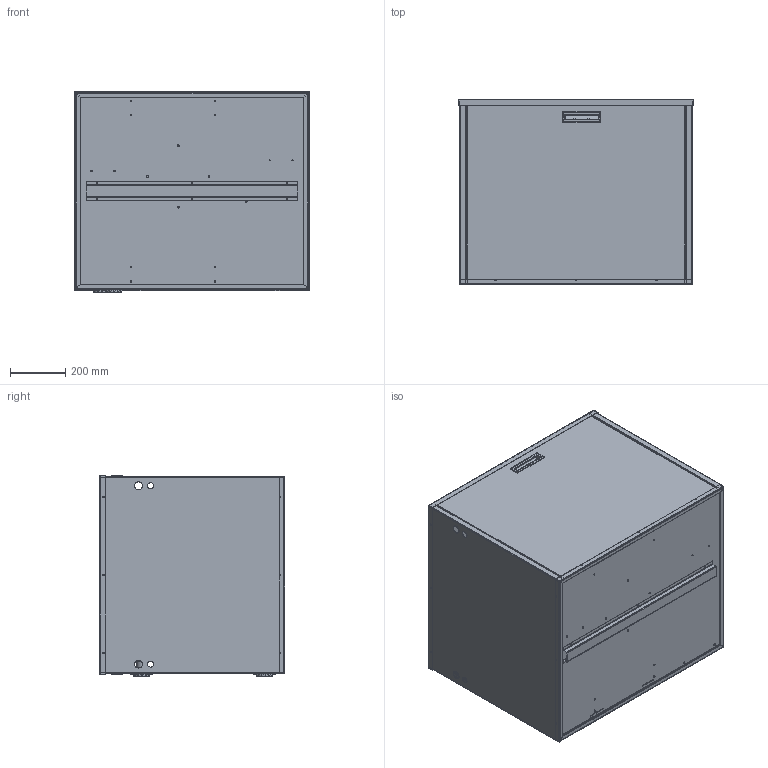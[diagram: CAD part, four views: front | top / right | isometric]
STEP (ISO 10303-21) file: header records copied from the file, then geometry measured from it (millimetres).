
FILE_DESCRIPTION (( 'STEP AP214' ), '1' );
FILE_NAME ('GW0481S1.STEP', '2016-07-14T14:40:28', ( 'BMC' ), ( 'Bard Manufacturing Co., Inc.' ), 'SwSTEP 2.0', 'SolidWorks 2016', '' );
FILE_SCHEMA (( 'AUTOMOTIVE_DESIGN' ));
Length unit declared in the file: inch
Products named in the file (17): Cap; 6094-012; 2012-008-005; 2012-008-001; 2012-008-004; 114-227; 140-387; 1171-060; 112-469; small threaded fitting; GW0481S1; 6 side threaded fitting; 112-470; 114-226; 2012-008-002; 2012-008-006; plastic trim
Assembly tree (25 placements, depth 2):
  GW0481S1
    small threaded fitting  x2
    112-469  x2
    1171-060  x2
    140-387
    114-227
    2012-008-004
    2012-008-001
    2012-008-005
    6094-012  x2
    Cap  x2
    plastic trim  x2
    2012-008-006
    2012-008-002  x2
    114-226
    112-470  x2
    6 side threaded fitting  x2
Bounding box: 847.42 x 668.61 x 726.12 mm (x, y, z)
Surface area: 7474281.8 mm2 (no closed solid volume)
Topology: 0 solids, 25 shells, 2017 faces, 5020 edges, 3060 vertices
Faces by surface type: cylinder 834, plane 617, cone 320, bspline 246
Entity records: 63616 total; most frequent: CARTESIAN_POINT 15453, ORIENTED_EDGE 6424, DIRECTION 6411, EDGE_CURVE 3212, AXIS2_PLACEMENT_3D 2406, VERTEX_POINT 1972, VECTOR 1599, LINE 1599
